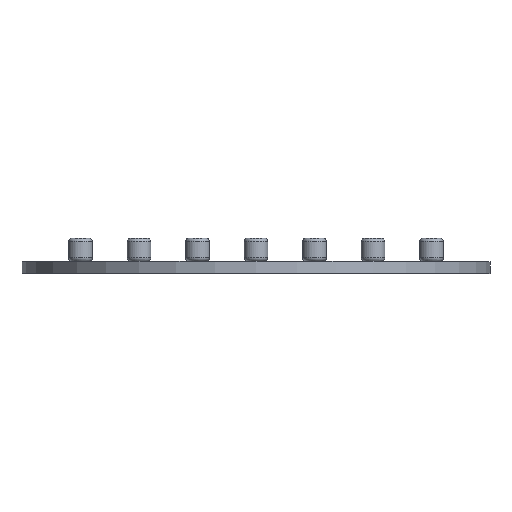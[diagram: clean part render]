
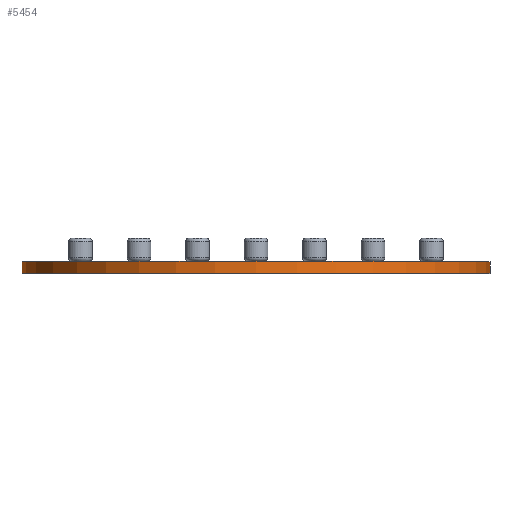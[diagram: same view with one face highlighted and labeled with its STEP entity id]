
A CAD part, top view. The second image highlights one B-rep face of the part: STEP entity #5454.
In plain terms, the highlighted cylindrical face has radius 100 mm (diameter 200 mm), a full revolution.
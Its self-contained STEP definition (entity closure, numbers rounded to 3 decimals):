
#500=FACE_OUTER_BOUND('',#840,.T.);
#840=EDGE_LOOP('',(#3915,#3916,#3917,#3918));
#1334=LINE('',#9414,#1496);
#1496=VECTOR('',#7316,100.);
#1707=CIRCLE('',#5987,100.);
#1708=CIRCLE('',#5988,100.);
#2383=VERTEX_POINT('',#9411);
#2384=VERTEX_POINT('',#9413);
#3012=EDGE_CURVE('',#2383,#2383,#1707,.T.);
#3013=EDGE_CURVE('',#2383,#2384,#1334,.T.);
#3014=EDGE_CURVE('',#2384,#2384,#1708,.T.);
#3915=ORIENTED_EDGE('',*,*,#3012,.F.);
#3916=ORIENTED_EDGE('',*,*,#3013,.T.);
#3917=ORIENTED_EDGE('',*,*,#3014,.T.);
#3918=ORIENTED_EDGE('',*,*,#3013,.F.);
#5308=CYLINDRICAL_SURFACE('',#5986,100.);
#5454=ADVANCED_FACE('',(#500),#5308,.T.);
#5986=AXIS2_PLACEMENT_3D('',#9410,#7312,#7313);
#5987=AXIS2_PLACEMENT_3D('',#9412,#7314,#7315);
#5988=AXIS2_PLACEMENT_3D('',#9415,#7317,#7318);
#7312=DIRECTION('center_axis',(0.,1.,0.));
#7313=DIRECTION('ref_axis',(1.,0.,0.));
#7314=DIRECTION('center_axis',(0.,1.,0.));
#7315=DIRECTION('ref_axis',(1.,0.,0.));
#7316=DIRECTION('',(0.,-1.,0.));
#7317=DIRECTION('center_axis',(0.,1.,0.));
#7318=DIRECTION('ref_axis',(1.,0.,0.));
#9410=CARTESIAN_POINT('Origin',(0.,0.,0.));
#9411=CARTESIAN_POINT('',(-100.,5.,0.));
#9412=CARTESIAN_POINT('Origin',(0.,5.,0.));
#9413=CARTESIAN_POINT('',(-100.,0.,0.));
#9414=CARTESIAN_POINT('',(-100.,0.,0.));
#9415=CARTESIAN_POINT('Origin',(0.,0.,0.));
